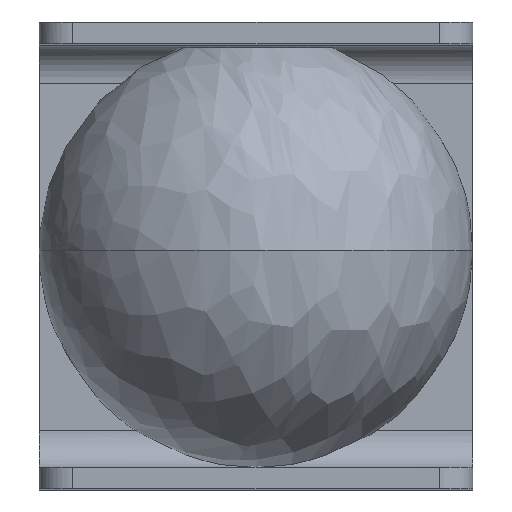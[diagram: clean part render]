
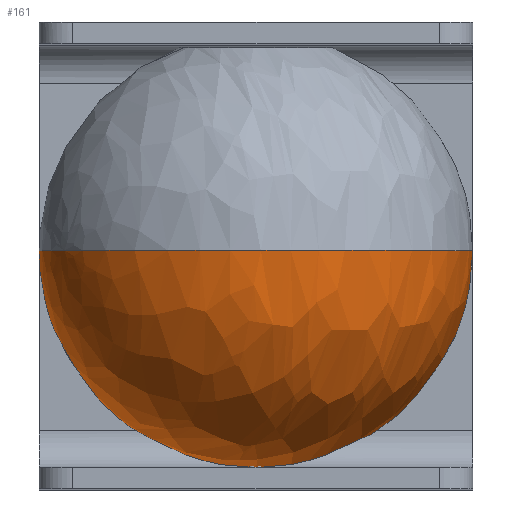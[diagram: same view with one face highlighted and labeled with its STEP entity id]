
A CAD part, top view. The second image highlights one B-rep face of the part: STEP entity #161.
In plain terms, the highlighted free-form (B-spline) face has degree [2, 2] with [5, 5] control points.
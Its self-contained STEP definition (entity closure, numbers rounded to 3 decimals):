
#23=(
BOUNDED_SURFACE()
B_SPLINE_SURFACE(2,2,((#3815,#3816,#3817,#3818,#3819),(#3820,#3821,#3822,
#3823,#3824),(#3825,#3826,#3827,#3828,#3829),(#3830,#3831,#3832,#3833,#3834),
(#3835,#3836,#3837,#3838,#3839)),.UNSPECIFIED.,.F.,.F.,.F.)
B_SPLINE_SURFACE_WITH_KNOTS((3,2,3),(3,2,3),(0.,125.664,251.327),
(0.,125.664,251.327),.UNSPECIFIED.)
GEOMETRIC_REPRESENTATION_ITEM()
RATIONAL_B_SPLINE_SURFACE(((1.,0.707,1.,0.707,1.),
(0.707,0.5,0.707,0.5,0.707),(1.,0.707,
1.,0.707,1.),(0.707,0.5,0.707,0.5,0.707),
(1.,0.707,1.,0.707,1.)))
REPRESENTATION_ITEM('')
SURFACE()
);
#161=ADVANCED_FACE('',(#294),#23,.T.);
#294=FACE_OUTER_BOUND('',#428,.T.);
#428=EDGE_LOOP('',(#1092,#1093));
#1092=ORIENTED_EDGE('',*,*,#1476,.T.);
#1093=ORIENTED_EDGE('',*,*,#1471,.F.);
#1471=EDGE_CURVE('',#2053,#2054,#1612,.T.);
#1476=EDGE_CURVE('',#2053,#2054,#1615,.T.);
#1612=(
BOUNDED_CURVE()
B_SPLINE_CURVE(2,(#3965,#3966,#3967,#3968,#3969),.UNSPECIFIED.,.F.,.F.)
B_SPLINE_CURVE_WITH_KNOTS((3,2,3),(0.,125.664,251.327),
 .UNSPECIFIED.)
CURVE()
GEOMETRIC_REPRESENTATION_ITEM()
RATIONAL_B_SPLINE_CURVE((1.,0.707,1.,0.707,1.))
REPRESENTATION_ITEM('')
);
#1615=(
BOUNDED_CURVE()
B_SPLINE_CURVE(2,(#3984,#3985,#3986,#3987,#3988),.UNSPECIFIED.,.F.,.F.)
B_SPLINE_CURVE_WITH_KNOTS((3,2,3),(0.,125.664,251.327),
 .UNSPECIFIED.)
CURVE()
GEOMETRIC_REPRESENTATION_ITEM()
RATIONAL_B_SPLINE_CURVE((1.,0.707,1.,0.707,1.))
REPRESENTATION_ITEM('')
);
#2053=VERTEX_POINT('',#3930);
#2054=VERTEX_POINT('',#3931);
#3815=CARTESIAN_POINT('',(-77.067,-12.665,287.513));
#3816=CARTESIAN_POINT('',(-39.554,-12.665,358.173));
#3817=CARTESIAN_POINT('',(31.105,-12.665,320.66));
#3818=CARTESIAN_POINT('',(101.765,-12.665,283.147));
#3819=CARTESIAN_POINT('',(64.252,-12.665,212.487));
#3820=CARTESIAN_POINT('',(-77.067,-12.665,287.513));
#3821=CARTESIAN_POINT('',(-39.554,-92.665,358.173));
#3822=CARTESIAN_POINT('',(31.105,-92.665,320.66));
#3823=CARTESIAN_POINT('',(101.765,-92.665,283.147));
#3824=CARTESIAN_POINT('',(64.252,-12.665,212.487));
#3825=CARTESIAN_POINT('',(-77.067,-12.665,287.513));
#3826=CARTESIAN_POINT('',(-77.067,-92.665,287.513));
#3827=CARTESIAN_POINT('',(-6.408,-92.665,250.));
#3828=CARTESIAN_POINT('',(64.252,-92.665,212.487));
#3829=CARTESIAN_POINT('',(64.252,-12.665,212.487));
#3830=CARTESIAN_POINT('',(-77.067,-12.665,287.513));
#3831=CARTESIAN_POINT('',(-114.58,-92.665,216.853));
#3832=CARTESIAN_POINT('',(-43.921,-92.665,179.34));
#3833=CARTESIAN_POINT('',(26.739,-92.665,141.827));
#3834=CARTESIAN_POINT('',(64.252,-12.665,212.487));
#3835=CARTESIAN_POINT('',(-77.067,-12.665,287.513));
#3836=CARTESIAN_POINT('',(-114.58,-12.665,216.853));
#3837=CARTESIAN_POINT('',(-43.921,-12.665,179.34));
#3838=CARTESIAN_POINT('',(26.739,-12.665,141.827));
#3839=CARTESIAN_POINT('',(64.252,-12.665,212.487));
#3930=CARTESIAN_POINT('',(-77.067,-12.665,287.513));
#3931=CARTESIAN_POINT('',(64.252,-12.665,212.487));
#3965=CARTESIAN_POINT('',(-77.067,-12.665,287.513));
#3966=CARTESIAN_POINT('',(-39.554,-12.665,358.173));
#3967=CARTESIAN_POINT('',(31.105,-12.665,320.66));
#3968=CARTESIAN_POINT('',(101.765,-12.665,283.147));
#3969=CARTESIAN_POINT('',(64.252,-12.665,212.487));
#3984=CARTESIAN_POINT('',(-77.067,-12.665,287.513));
#3985=CARTESIAN_POINT('',(-114.58,-12.665,216.853));
#3986=CARTESIAN_POINT('',(-43.921,-12.665,179.34));
#3987=CARTESIAN_POINT('',(26.739,-12.665,141.827));
#3988=CARTESIAN_POINT('',(64.252,-12.665,212.487));
